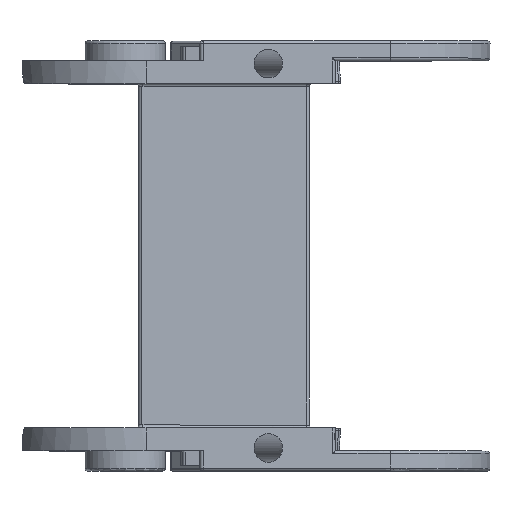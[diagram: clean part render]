
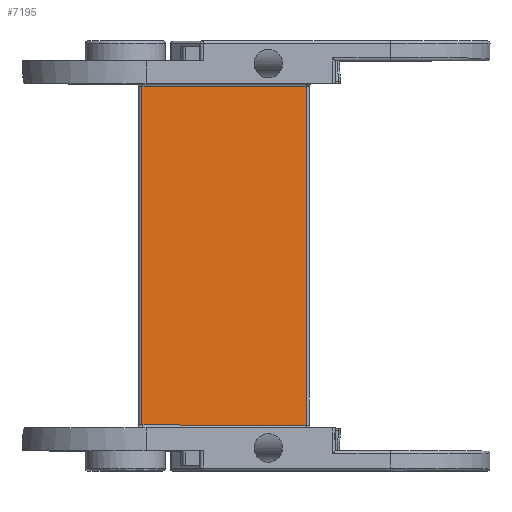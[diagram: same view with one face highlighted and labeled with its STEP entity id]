
A CAD part, top view. The second image highlights one B-rep face of the part: STEP entity #7195.
In plain terms, the highlighted planar face has unit normal (0.133, 0, 0.991).
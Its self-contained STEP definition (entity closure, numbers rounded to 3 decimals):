
#104=CARTESIAN_POINT('',(47.817,8.875,146.031));
#105=VERTEX_POINT('',#104);
#122=CARTESIAN_POINT('',(76.561,8.875,142.19));
#123=VERTEX_POINT('',#122);
#131=CARTESIAN_POINT('',(47.817,8.875,146.031));
#132=DIRECTION('',(0.991,0.,-0.132));
#133=VECTOR('',#132,29.);
#134=LINE('',#131,#133);
#135=EDGE_CURVE('',#105,#123,#134,.T.);
#7046=CARTESIAN_POINT('',(76.561,67.875,142.19));
#7047=VERTEX_POINT('',#7046);
#7055=CARTESIAN_POINT('',(76.561,67.875,142.19));
#7056=DIRECTION('',(0.0,-1.0,0.0));
#7057=VECTOR('',#7056,59.);
#7058=LINE('',#7055,#7057);
#7059=EDGE_CURVE('',#7047,#123,#7058,.T.);
#7172=CARTESIAN_POINT('',(77.58,20.375,142.054));
#7173=DIRECTION('',(0.132,0.,0.991));
#7174=DIRECTION('',(0.0,1.0,0.0));
#7175=AXIS2_PLACEMENT_3D('',#7172,#7173,#7174);
#7176=PLANE('',#7175);
#7177=ORIENTED_EDGE('',*,*,#7059,.F.);
#7178=CARTESIAN_POINT('',(47.817,67.875,146.031));
#7179=VERTEX_POINT('',#7178);
#7180=CARTESIAN_POINT('',(47.817,67.875,146.031));
#7181=DIRECTION('',(0.991,0.,-0.132));
#7182=VECTOR('',#7181,29.);
#7183=LINE('',#7180,#7182);
#7184=EDGE_CURVE('',#7179,#7047,#7183,.T.);
#7185=ORIENTED_EDGE('',*,*,#7184,.F.);
#7186=CARTESIAN_POINT('',(47.817,8.875,146.031));
#7187=DIRECTION('',(0.0,1.0,0.0));
#7188=VECTOR('',#7187,59.);
#7189=LINE('',#7186,#7188);
#7190=EDGE_CURVE('',#105,#7179,#7189,.T.);
#7191=ORIENTED_EDGE('',*,*,#7190,.F.);
#7192=ORIENTED_EDGE('',*,*,#135,.T.);
#7193=EDGE_LOOP('',(#7177,#7185,#7191,#7192));
#7194=FACE_OUTER_BOUND('',#7193,.T.);
#7195=ADVANCED_FACE('',(#7194),#7176,.T.);
